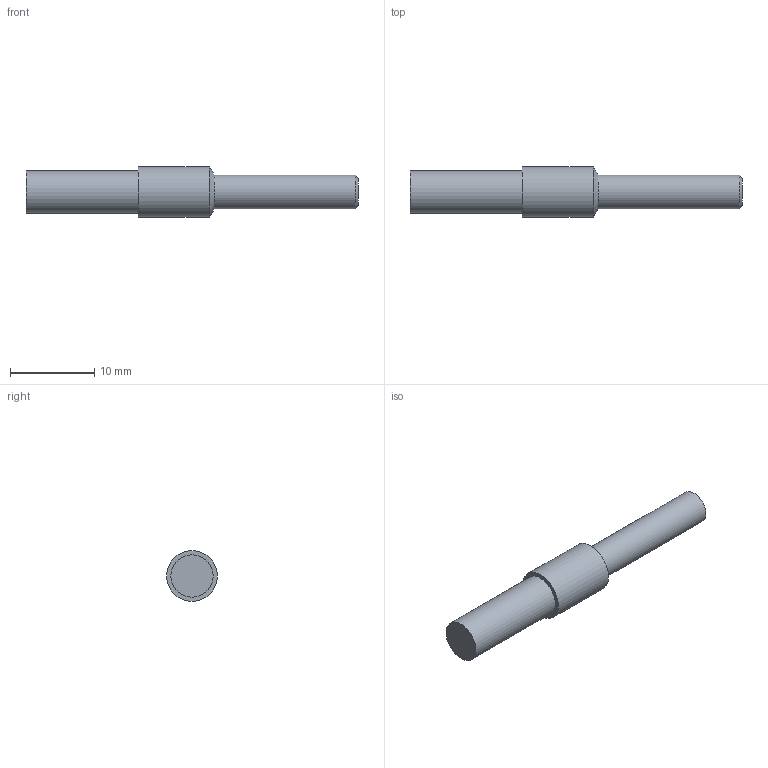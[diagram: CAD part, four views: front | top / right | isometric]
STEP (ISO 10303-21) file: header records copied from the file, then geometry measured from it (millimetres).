
FILE_DESCRIPTION(/* description */ ('STEP AP203'),/* implementation_level */ '2;1');
FILE_NAME(/* name */ 'P_MZ_FO_0125',/* time_stamp */ '2023-03-03T13:00:15+01:00',/* author */ ('License CC BY-ND 4.0'),/* organization */ ('CADENAS'),/* preprocessor_version */ 'ST-DEVELOPER v18.102',/* originating_system */ 'PARTsolutions',/* authorisation */ ' ');
FILE_SCHEMA (('CONFIG_CONTROL_DESIGN'));
Length unit declared in the file: millimetre
Products named in the file (1): P_MZ_FO_0125
Bounding box: 39.3 x 6 x 6 mm (x, y, z)
Volume: 723.5 mm3; surface area: 637.3 mm2
Topology: 1 solids, 1 shells, 8 faces, 12 edges, 7 vertices
Faces by surface type: plane 3, cylinder 3, cone 2
Full cylindrical faces by diameter (mm): 4 x1, 5 x1, 6 x1
Entity records: 234 total; most frequent: DIRECTION 32, CARTESIAN_POINT 23, AXIS2_PLACEMENT_3D 16, ORIENTED_EDGE 14, EDGE_LOOP 14, FACE_BOUND 14, STYLED_ITEM 8, PRESENTATION_STYLE_ASSIGNMENT 8
